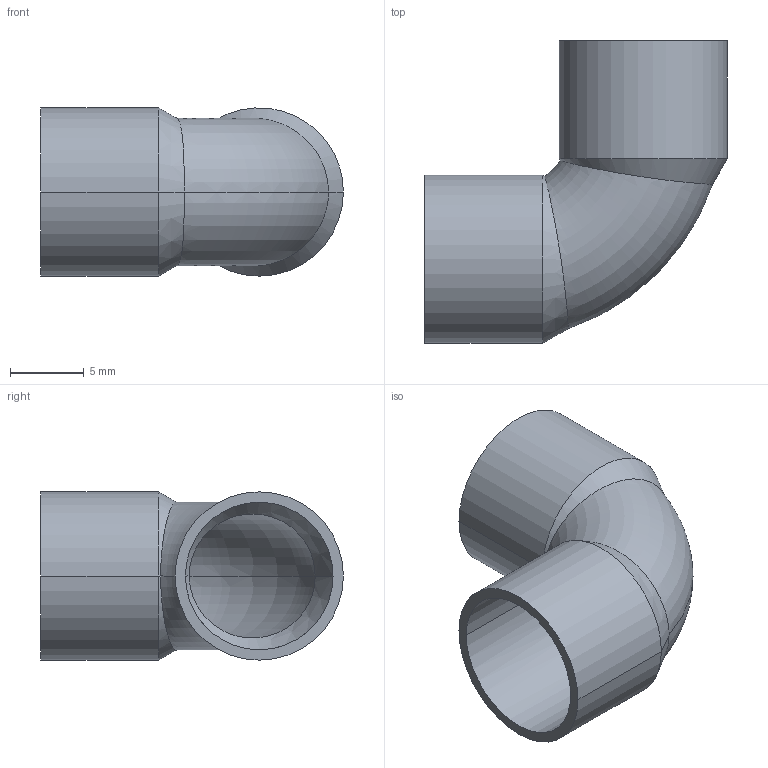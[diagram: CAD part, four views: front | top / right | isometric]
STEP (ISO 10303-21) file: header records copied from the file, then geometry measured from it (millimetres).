
FILE_DESCRIPTION((''),'2;1');
FILE_NAME('G:\SANHA-TERNAT\Technik\Deckel\UUU\Producttek\1509010\1509010(0).stp','2007-07-25T08:16:48',('vdvijverd'),(''),'Autodesk Inventor 8','Autodesk Inventor 8','');
FILE_SCHEMA(('AUTOMOTIVE_DESIGN { 1 0 10303 214 1 1 1 1 }'));
Length unit declared in the file: millimetre
Products named in the file (1): 1509010(0)
Bounding box: 20.5 x 20.5 x 11.4 mm (x, y, z)
Volume: 609.3 mm3; surface area: 1724.7 mm2
Topology: 1 solids, 1 shells, 22 faces, 52 edges, 32 vertices
Faces by surface type: bspline 9, torus 4, cylinder 4, cone 4, plane 1
Entity records: 919 total; most frequent: CARTESIAN_POINT 422, ORIENTED_EDGE 104, DIRECTION 92, EDGE_CURVE 52, AXIS2_PLACEMENT_3D 38, VERTEX_POINT 32, CIRCLE 24, EDGE_LOOP 24
